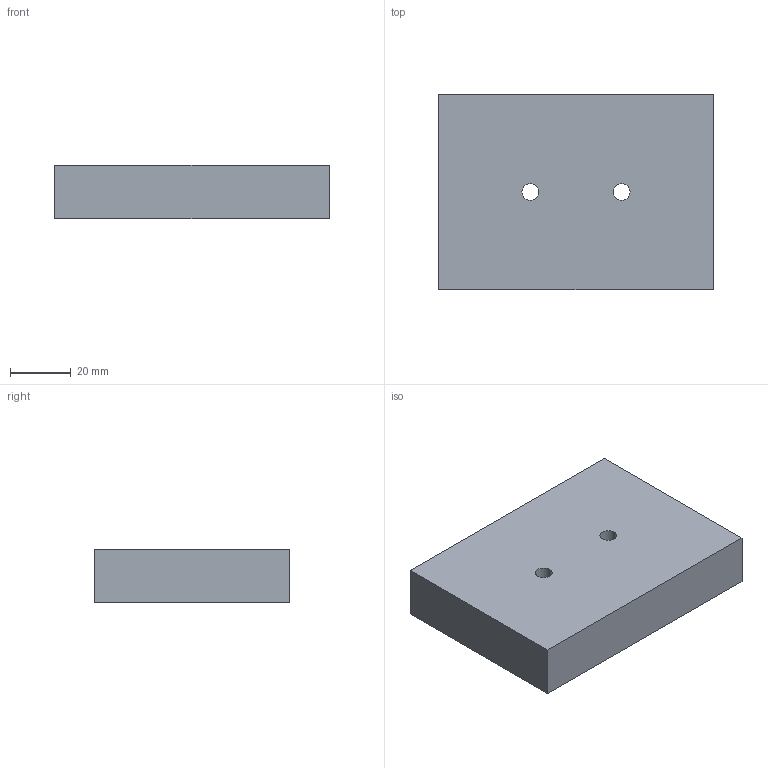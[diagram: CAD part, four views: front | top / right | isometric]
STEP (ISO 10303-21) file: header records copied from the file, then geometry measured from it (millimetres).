
FILE_DESCRIPTION (( 'STEP AP214' ), '1' );
FILE_NAME ('GZ47.02_V1气缸垫块.STEP', '2021-06-30T08:27:19', ( '微软中国' ), ( 'Microsoft' ), 'SwSTEP 2.0', 'SolidWorks 2017', '' );
FILE_SCHEMA (( 'AUTOMOTIVE_DESIGN' ));
Length unit declared in the file: millimetre
Products named in the file (1): GZ47.02_V1气缸垫块
Bounding box: 90 x 64 x 17.5 mm (x, y, z)
Volume: 99968.5 mm3; surface area: 17419.7 mm2
Topology: 1 solids, 1 shells, 10 faces, 24 edges, 16 vertices
Faces by surface type: plane 6, cylinder 4
Entity records: 338 total; most frequent: DIRECTION 54, CARTESIAN_POINT 51, ORIENTED_EDGE 48, EDGE_CURVE 24, AXIS2_PLACEMENT_3D 19, VERTEX_POINT 16, VECTOR 16, LINE 16
